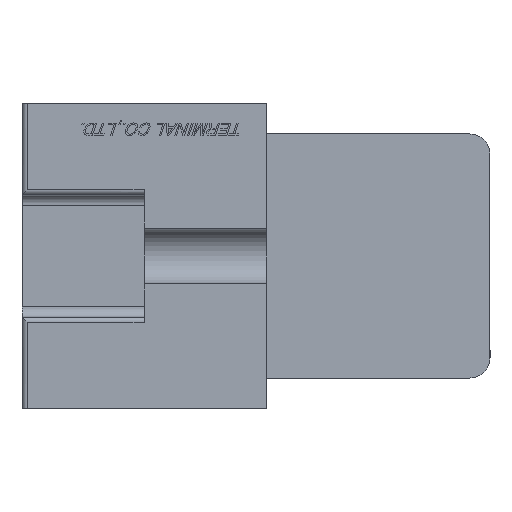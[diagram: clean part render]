
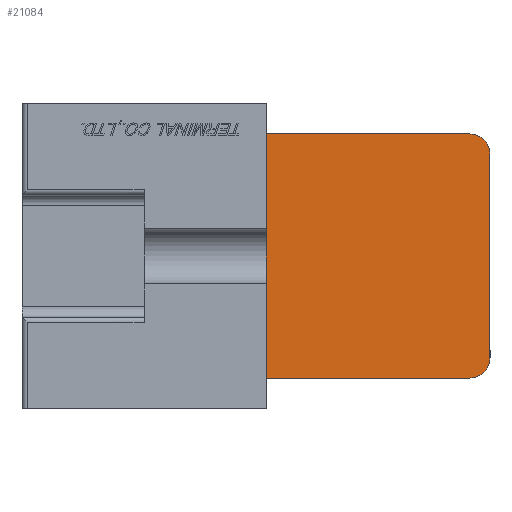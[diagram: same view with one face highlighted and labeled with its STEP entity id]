
A CAD part, left-side view. The second image highlights one B-rep face of the part: STEP entity #21084.
In plain terms, the highlighted planar face has unit normal (-1, 0, 0).
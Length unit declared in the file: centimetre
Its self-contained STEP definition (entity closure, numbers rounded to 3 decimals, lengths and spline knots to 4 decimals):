
#1309=PLANE('',#38604);
#2189=CIRCLE('',#38549,0.2);
#2191=CIRCLE('',#38553,0.2);
#3897=VERTEX_POINT('',#33987);
#3898=VERTEX_POINT('',#33989);
#3920=VERTEX_POINT('',#34136);
#3928=VERTEX_POINT('',#34155);
#4383=VERTEX_POINT('',#36137);
#4391=VERTEX_POINT('',#36223);
#5519=VECTOR('',#25256,1.);
#5544=VECTOR('',#25334,1.);
#5553=VECTOR('',#25346,1.);
#6037=VECTOR('',#26209,1.);
#7068=LINE('',#33988,#5519);
#7093=LINE('',#34137,#5544);
#7102=LINE('',#34156,#5553);
#7586=LINE('',#36222,#6037);
#9741=EDGE_CURVE('',#3897,#3898,#7068,.T.);
#9786=EDGE_CURVE('',#3920,#3897,#7093,.T.);
#9797=EDGE_CURVE('',#3920,#3928,#7102,.T.);
#10471=EDGE_CURVE('',#3898,#4383,#2189,.T.);
#10482=EDGE_CURVE('',#4391,#4383,#7586,.T.);
#10484=EDGE_CURVE('',#4391,#3928,#2191,.T.);
#16467=ORIENTED_EDGE('',*,*,#10471,.F.);
#16468=ORIENTED_EDGE('',*,*,#9741,.F.);
#16469=ORIENTED_EDGE('',*,*,#9786,.F.);
#16470=ORIENTED_EDGE('',*,*,#9797,.T.);
#16471=ORIENTED_EDGE('',*,*,#10484,.F.);
#16472=ORIENTED_EDGE('',*,*,#10482,.T.);
#18091=EDGE_LOOP('',(#16467,#16468,#16469,#16470,#16471,#16472));
#19710=FACE_BOUND('',#18091,.T.);
#21084=ADVANCED_FACE('',(#19710),#1309,.T.);
#25256=DIRECTION('',(0.,-1.,0.));
#25334=DIRECTION('',(0.,0.,1.));
#25346=DIRECTION('',(0.,-1.,0.));
#26198=DIRECTION('',(1.,0.,0.));
#26199=DIRECTION('',(0.,-0.141,0.141));
#26209=DIRECTION('',(0.,0.,1.));
#26213=DIRECTION('',(1.,0.,0.));
#26214=DIRECTION('',(0.,-0.141,-0.141));
#26321=DIRECTION('',(-1.,0.,0.));
#33987=CARTESIAN_POINT('',(-4.15,1.1,1.2));
#33988=CARTESIAN_POINT('',(-4.15,1.1,1.2));
#33989=CARTESIAN_POINT('',(-4.15,-0.9,1.2));
#34136=CARTESIAN_POINT('',(-4.15,1.1,-1.2));
#34137=CARTESIAN_POINT('',(-4.15,1.1,0.));
#34155=CARTESIAN_POINT('',(-4.15,-0.9,-1.2));
#34156=CARTESIAN_POINT('',(-4.15,1.1,-1.2));
#36136=CARTESIAN_POINT('',(-4.15,-0.9,1.));
#36137=CARTESIAN_POINT('',(-4.15,-1.1,1.));
#36222=CARTESIAN_POINT('',(-4.15,-1.1,-1.2));
#36223=CARTESIAN_POINT('',(-4.15,-1.1,-1.));
#36226=CARTESIAN_POINT('',(-4.15,-0.9,-1.));
#36319=CARTESIAN_POINT('',(-4.15,1.1,0.));
#38549=AXIS2_PLACEMENT_3D('',#36136,#26198,#26199);
#38553=AXIS2_PLACEMENT_3D('',#36226,#26213,#26214);
#38604=AXIS2_PLACEMENT_3D('',#36319,#26321,$);
